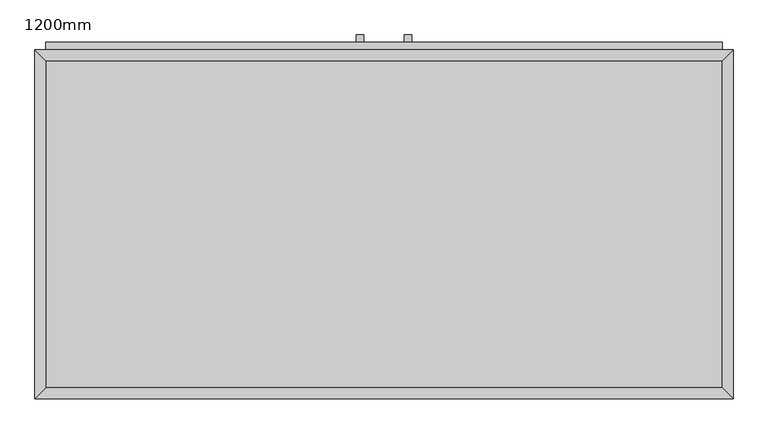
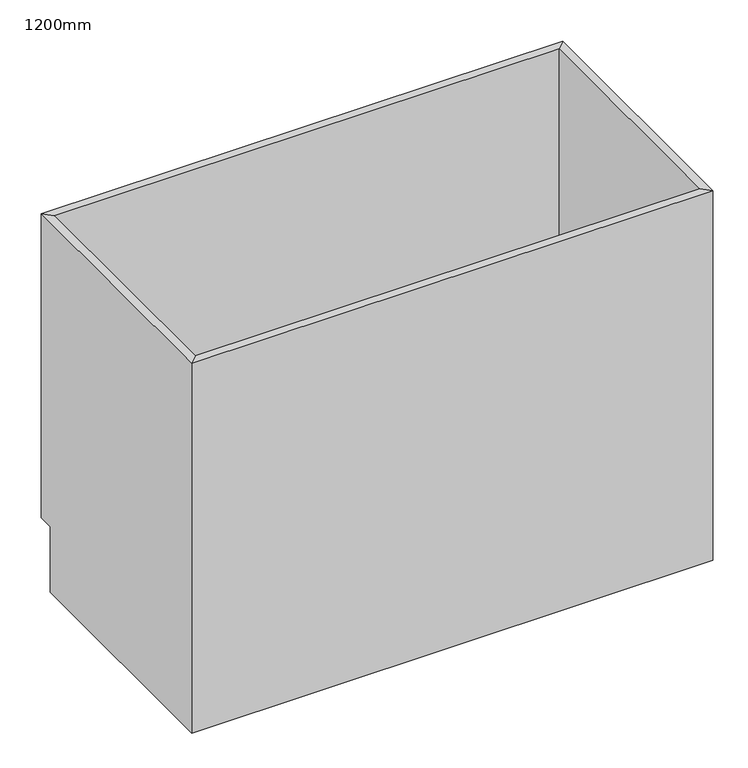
"""IFC4 building model written with IfcOpenShell, lengths in millimetres: furniture geometry, Placard - Porte double unité pour évier : 1200mm."""

from ifc_helpers import new_model, si_unit, frame, origin, place, context, project, spatial, polyline, outline, extrude, faceted_brep, source, transform, mapped, element, save


def furniture_1200mm_c55fc982(model_context):
    return source(origin(), model_context, "Body", "SolidModel", [
        faceted_brep([(599.6877049, 580.95, 900.0), (-562.2122951, 580.95, 900.0), (-562.2122951, 580.95, 160.0), (599.6877049, 580.95, 160.0), (618.7377049, 600.0, 900.0), (-581.2622951, 600.0, 900.0), (618.7377049, 600.0, 160.0), (-581.2622951, 600.0, 160.0), (-562.2122951, 19.05, 900.0), (-562.2122951, 19.05, 160.0), (-562.2122951, 565.0, 160.0), (-581.2622951, 0.0, 900.0), (-581.2622951, 565.0, 160.0), (-581.2622951, 565.0, 0.0), (-581.2622951, 0.0, 0.0), (599.6877049, 19.05, 900.0), (599.6877049, 19.05, 160.0), (618.7377049, 0.0, 900.0), (618.7377049, 0.0, 0.0), (599.6877049, 565.0, 160.0), (618.7377049, 565.0, 0.0), (618.7377049, 565.0, 160.0)], [[[0, 1, 2, 3]], [[0, 4, 5, 1]], [[4, 6, 7, 5]], [[2, 7, 6, 3]], [[1, 8, 9, 10, 2]], [[5, 11, 8, 1]], [[7, 12, 13, 14, 11, 5]], [[2, 10, 12, 7]], [[8, 15, 16, 9]], [[11, 17, 15, 8]], [[14, 18, 17, 11]], [[3, 19, 16, 15, 0]], [[0, 15, 17, 4]], [[4, 17, 18, 20, 21, 6]], [[6, 21, 19, 3]], [[10, 9, 16, 19]], [[18, 14, 13, 20]], [[13, 12, 10, 19, 21, 20]]]),
        extrude(outline(polyline([(-16.1872951, 625.4), (-16.1872951, 612.7), (-28.8872951, 612.7), (-28.8872951, 625.4), (-16.1872951, 625.4)])), frame((0.0, 0.0, 597.469895), z_axis=(0.0, 0.0, 1.0), x_axis=(1.0, 0.0, 0.0)), (0.0, 0.0, 1.0), 124.730105),
        extrude(outline(polyline([(66.3627049, 625.4), (66.3627049, 612.7), (53.6627049, 612.7), (53.6627049, 625.4), (66.3627049, 625.4)])), frame((0.0, 0.0, 597.469895), z_axis=(0.0, 0.0, 1.0), x_axis=(1.0, 0.0, 0.0)), (0.0, 0.0, 1.0), 124.730105),
        extrude(outline(polyline([(9.2127049, 612.7), (9.2127049, 600.0), (-562.2122951, 600.0), (-562.2122951, 612.7), (9.2127049, 612.7)])), frame((0.0, 0.0, 179.05), z_axis=(0.0, 0.0, 1.0), x_axis=(1.0, 0.0, 0.0)), (0.0, 0.0, 1.0), 581.25),
        extrude(outline(polyline([(599.6877049, 612.7), (599.6877049, 600.0), (28.2627049, 600.0), (28.2627049, 612.7), (599.6877049, 612.7)])), frame((0.0, 0.0, 179.05), z_axis=(0.0, 0.0, 1.0), x_axis=(1.0, 0.0, 0.0)), (0.0, 0.0, 1.0), 581.25),
        extrude(outline(polyline([(599.6877049, 612.7), (599.6877049, 600.0), (-562.2122951, 600.0), (-562.2122951, 612.7), (599.6877049, 612.7)])), frame((0.0, 0.0, 779.35), z_axis=(0.0, 0.0, 1.0), x_axis=(1.0, 0.0, 0.0)), (0.0, 0.0, 1.0), 101.6),
        extrude(outline(polyline([(599.6877049, 19.05), (-562.2122951, 19.05), (-562.2122951, 580.95), (599.6877049, 580.95), (599.6877049, 19.05)])), frame((0.0, 0.0, 160.0), z_axis=(0.0, 0.0, 1.0), x_axis=(1.0, 0.0, 0.0)), (0.0, 0.0, 1.0), 19.05),
    ])


if __name__ == "__main__":
    model = new_model("IFC4")
    model_context = context("Model", 3, world=origin())
    ifc_project = project(units=[si_unit("LENGTHUNIT", "METRE", prefix="MILLI")], contexts=[model_context])
    site = spatial("IfcSite", under=ifc_project)
    building = spatial("IfcBuilding", under=site)
    placement = place(None, origin())
    furniture_1200mm_shape = furniture_1200mm_c55fc982(model_context)
    element("IfcFurniture", 1, ObjectType="Placard - Porte double unité pour évier : 1200mm", at=placement, inside=building, context=model_context, shape_type="MappedRepresentation", body=[
        mapped(furniture_1200mm_shape, transform((0.0, 0.0, 0.0), x_axis=(1.0, 0.0, 0.0), y_axis=(0.0, 1.0, 0.0), z_axis=(0.0, 0.0, 1.0))),
    ])
    save(model, "model.ifc")
